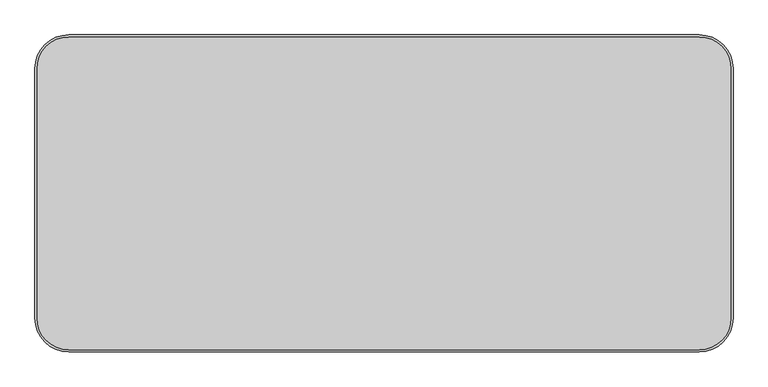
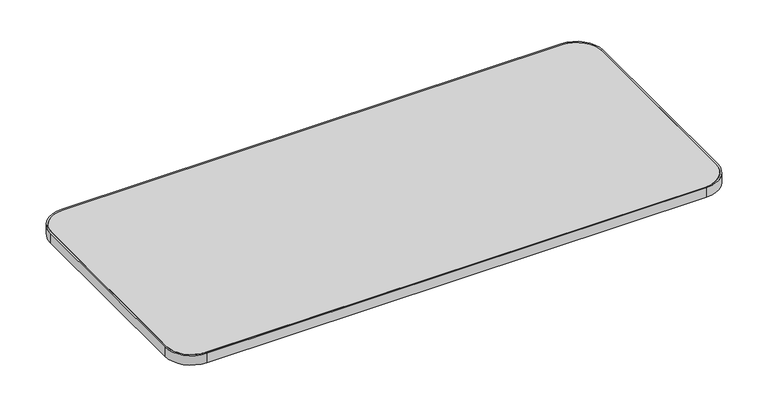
"""IFC4 building model written with IfcOpenShell, lengths in millimetres: furniture geometry, Steelcase - Answer Solution - Universal Table - Straight - 3mm Edge : 30D x 66W."""

from ifc_helpers import new_model, si_unit, point, frame, frame_2d, origin, place, context, project, spatial, polyline, circle_curve, trimmed, segment, composite_curve, outline, extrude, source, transform, mapped, element, save


def furniture_23bbaa94(model_context):
    return source(origin(), model_context, "Body", "SweptSolid", [
        extrude(outline(composite_curve([segment(polyline([(5.08, -680.72), (5.08, -81.28)]), True, "CONTINUOUS"), segment(trimmed(circle_curve(frame_2d((81.28, -81.28)), 76.2), [point((5.08, -81.28))], [point((81.28, -5.08))], False, "CARTESIAN"), True, "CONTINUOUS"), segment(polyline([(81.28, -5.08), (1595.12, -5.08)]), True, "CONTINUOUS"), segment(trimmed(circle_curve(frame_2d((1595.12, -81.28)), 76.2), [point((1595.12, -5.08))], [point((1671.32, -81.28))], False, "CARTESIAN"), True, "CONTINUOUS"), segment(polyline([(1671.32, -81.28), (1671.32, -680.72)]), True, "CONTINUOUS"), segment(trimmed(circle_curve(frame_2d((1595.12, -680.72)), 76.2), [point((1671.32, -680.72))], [point((1595.12, -756.92))], False, "CARTESIAN"), True, "CONTINUOUS"), segment(polyline([(1595.12, -756.92), (81.28, -756.92)]), True, "CONTINUOUS"), segment(trimmed(circle_curve(frame_2d((81.28, -680.72)), 76.2), [point((81.28, -756.92))], [point((5.08, -680.72))], False, "CARTESIAN"), True, "CONTINUOUS")], self_intersect=False)), frame((0.0, 0.0, 668.274), z_axis=(0.0, 0.0, 1.0), x_axis=(1.0, 0.0, 0.0)), (0.0, 0.0, 1.0), 30.0990349),
        extrude(outline(composite_curve([segment(polyline([(81.28, 0.0), (1595.12, 0.0)]), True, "CONTINUOUS"), segment(trimmed(circle_curve(frame_2d((1595.12, -81.28)), 81.28), [point((1595.12, 0.0))], [point((1676.4, -81.28))], False, "CARTESIAN"), True, "CONTINUOUS"), segment(polyline([(1676.4, -81.28), (1676.4, -680.72)]), True, "CONTINUOUS"), segment(trimmed(circle_curve(frame_2d((1595.12, -680.72)), 81.28), [point((1676.4, -680.72))], [point((1595.12, -762.0))], False, "CARTESIAN"), True, "CONTINUOUS"), segment(polyline([(1595.12, -762.0), (81.28, -762.0)]), True, "CONTINUOUS"), segment(trimmed(circle_curve(frame_2d((81.28, -680.72)), 81.28), [point((81.28, -762.0))], [point((0.0, -680.72))], False, "CARTESIAN"), True, "CONTINUOUS"), segment(polyline([(0.0, -680.72), (0.0, -81.28)]), True, "CONTINUOUS"), segment(trimmed(circle_curve(frame_2d((81.28, -81.28)), 81.28), [point((0.0, -81.28))], [point((81.28, 0.0))], False, "CARTESIAN"), True, "CONTINUOUS")], self_intersect=False), holes=[composite_curve([segment(trimmed(circle_curve(frame_2d((81.28, -81.28)), 76.2), [point((81.28, -5.08))], [point((5.08, -81.28))], True, "CARTESIAN"), True, "CONTINUOUS"), segment(polyline([(5.08, -81.28), (5.08, -680.72)]), True, "CONTINUOUS"), segment(trimmed(circle_curve(frame_2d((81.28, -680.72)), 76.2), [point((5.08, -680.72))], [point((81.28, -756.92))], True, "CARTESIAN"), True, "CONTINUOUS"), segment(polyline([(81.28, -756.92), (1595.12, -756.92)]), True, "CONTINUOUS"), segment(trimmed(circle_curve(frame_2d((1595.12, -680.72)), 76.2), [point((1595.12, -756.92))], [point((1671.32, -680.72))], True, "CARTESIAN"), True, "CONTINUOUS"), segment(polyline([(1671.32, -680.72), (1671.32, -81.28)]), True, "CONTINUOUS"), segment(trimmed(circle_curve(frame_2d((1595.12, -81.28)), 76.2), [point((1671.32, -81.28))], [point((1595.12, -5.08))], True, "CARTESIAN"), True, "CONTINUOUS"), segment(polyline([(1595.12, -5.08), (81.28, -5.08)]), True, "CONTINUOUS")], self_intersect=False)]), frame((0.0, 0.0, 668.274), z_axis=(0.0, 0.0, 1.0), x_axis=(1.0, 0.0, 0.0)), (0.0, 0.0, 1.0), 30.0990349),
    ])


if __name__ == "__main__":
    model = new_model("IFC4")
    model_context = context("Model", 3, world=origin())
    ifc_project = project(units=[si_unit("LENGTHUNIT", "METRE", prefix="MILLI")], contexts=[model_context])
    site = spatial("IfcSite", under=ifc_project)
    building = spatial("IfcBuilding", under=site)
    placement = place(None, origin())
    furniture_shape = furniture_23bbaa94(model_context)
    element("IfcFurniture", 1, ObjectType="Steelcase - Answer Solution - Universal Table - Straight - 3mm Edge : 30D x 66W", at=placement, inside=building, context=model_context, shape_type="MappedRepresentation", body=[
        mapped(furniture_shape, transform((0.0, 0.0, 0.0), x_axis=(1.0, 0.0, 0.0), y_axis=(0.0, 1.0, 0.0), z_axis=(0.0, 0.0, 1.0))),
    ])
    save(model, "model.ifc")
